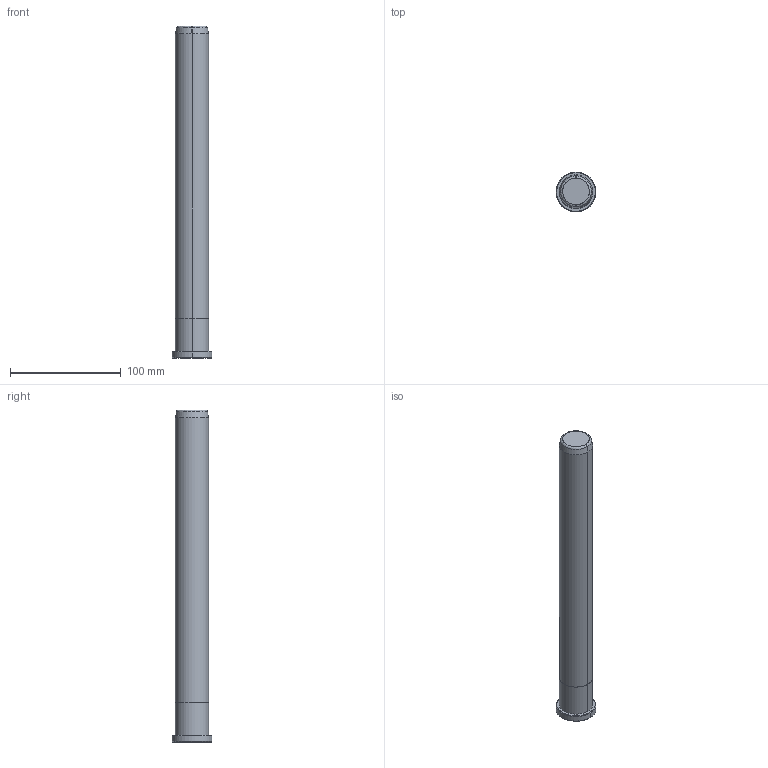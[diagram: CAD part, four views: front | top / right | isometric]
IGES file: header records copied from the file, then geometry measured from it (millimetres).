
Start section: START RECORD GO HERE.
Global section: file name: B82830300.igs; native system: DASSAULT SYSTEMES CATIA V5 R20 - www.3ds.com; preprocessor: CATIA Version 5 Release 20 ; author: Utente; organization: NB04-ASUS; date: 20200419.173924; units: millimetre
Bounding box: 36 x 36 x 300 mm (x, y, z)
Surface area: 30179.1 mm2 (no closed solid volume)
Topology: 0 solids, 0 shells, 20 faces, 80 edges, 80 vertices
Faces by surface type: revolution 16, plane 4
